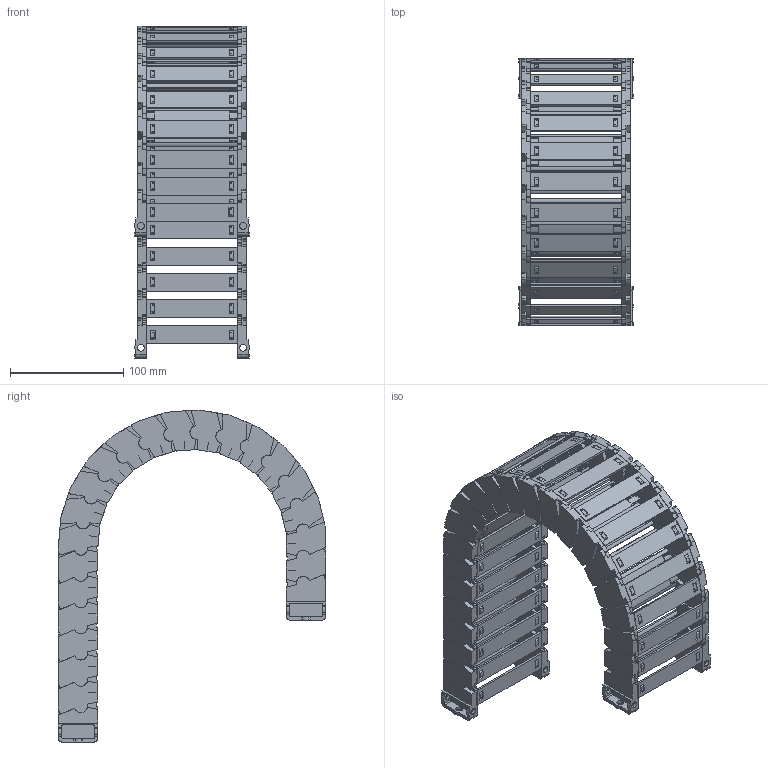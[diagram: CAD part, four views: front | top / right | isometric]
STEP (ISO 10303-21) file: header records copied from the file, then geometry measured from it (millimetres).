
FILE_DESCRIPTION((''),'2;1');
FILE_NAME('JY-25X80-R100_ASM','2022-05-07T10:41:21',('admin'),(''),'CREO PARAMETRIC BY PTC INC, 2021164','CREO PARAMETRIC BY PTC INC, 2021164','');
FILE_SCHEMA(('CONFIG_CONTROL_DESIGN','GEOMETRIC_VALIDATION_PROPERTIES_MIM'));
Length unit declared in the file: millimetre
Products named in the file (11): 25XL-L; 25-35XL-YP; 25XL-R; ASM0001_ASM; 25-LTT-A-L; 25-LTT-A-R; 25XL-LTT-A_ASM; 25-LTT-B-L; 25-LTT-B-R; 25XL-LTT-B_ASM; JY-25X80-R100_ASM
Assembly tree (35 placements, depth 3):
  JY-25X80-R100_ASM
    ASM0001_ASM  x21
      25XL-L
      25-35XL-YP
      25XL-R
    25XL-LTT-A_ASM
      25-LTT-A-L
      25-35XL-YP  x2
      25-LTT-A-R
    25XL-LTT-B_ASM
      25-LTT-B-L
      25-35XL-YP  x2
      25-LTT-B-R
Bounding box: 101.17 x 235.5 x 292.58 mm (x, y, z)
Volume: 444464.7 mm3; surface area: 329644.2 mm2
Topology: 92 solids, 113 shells, 4780 faces, 14283 edges, 9664 vertices
Faces by surface type: plane 3523, cylinder 1215, cone 42
Entity records: 24095 total; most frequent: CARTESIAN_POINT 3126, DIRECTION 3021, ORIENTED_EDGE 2962, EDGE_CURVE 1483, PRESENTATION_STYLE_ASSIGNMENT 1413, STYLED_ITEM 1381, VECTOR 1053, LINE 1053
